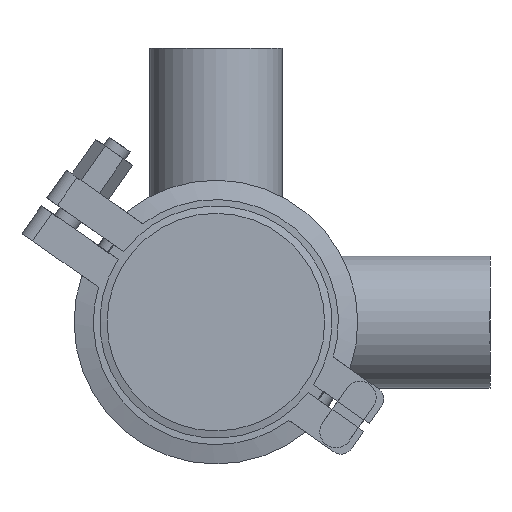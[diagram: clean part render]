
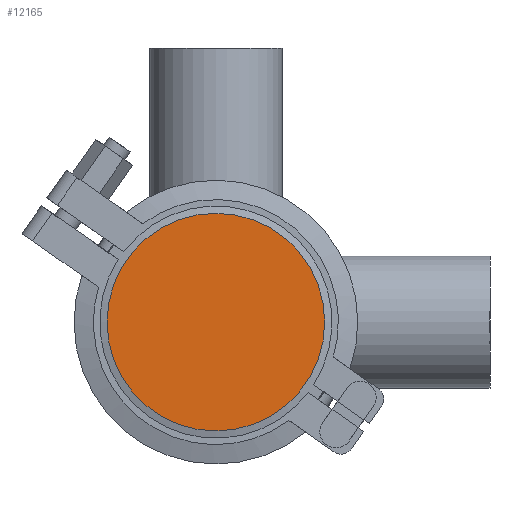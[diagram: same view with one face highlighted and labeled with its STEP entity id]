
A CAD part, front view. The second image highlights one B-rep face of the part: STEP entity #12165.
In plain terms, the highlighted planar face has unit normal (0, -1, 0).
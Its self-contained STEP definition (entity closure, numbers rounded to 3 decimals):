
#2045 = VERTEX_POINT ( 'NONE', #15779 ) ;
#4139 = AXIS2_PLACEMENT_3D ( 'NONE', #5231, #8657, #8271 ) ;
#4499 = PLANE ( 'NONE',  #17803 ) ;
#5231 = CARTESIAN_POINT ( 'NONE',  ( 0., 0., 0. ) ) ;
#6074 = DIRECTION ( 'NONE',  ( 0., -1., 0. ) ) ;
#7962 = FACE_OUTER_BOUND ( 'NONE', #18321, .T. ) ;
#8271 = DIRECTION ( 'NONE',  ( 0., 0., 1. ) ) ;
#8657 = DIRECTION ( 'NONE',  ( 0., 1., 0. ) ) ;
#9503 = ORIENTED_EDGE ( 'NONE', *, *, #14083, .F. ) ;
#10784 = CARTESIAN_POINT ( 'NONE',  ( -33.75, 0., 0. ) ) ;
#12165 = ADVANCED_FACE ( 'NONE', ( #7962 ), #4499, .T. ) ;
#14083 = EDGE_CURVE ( 'NONE', #2045, #2045, #18673, .T. ) ;
#15779 = CARTESIAN_POINT ( 'NONE',  ( 0., 0., 33.75 ) ) ;
#17803 = AXIS2_PLACEMENT_3D ( 'NONE', #10784, #6074, #18571 ) ;
#18321 = EDGE_LOOP ( 'NONE', ( #9503 ) ) ;
#18571 = DIRECTION ( 'NONE',  ( 0., 0., -1. ) ) ;
#18673 = CIRCLE ( 'NONE', #4139, 33.75 ) ;
